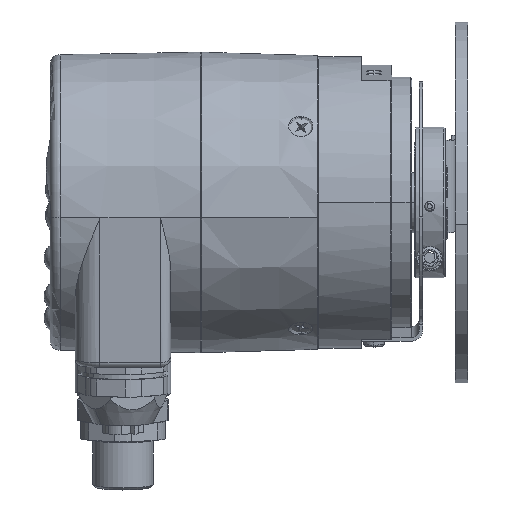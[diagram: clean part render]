
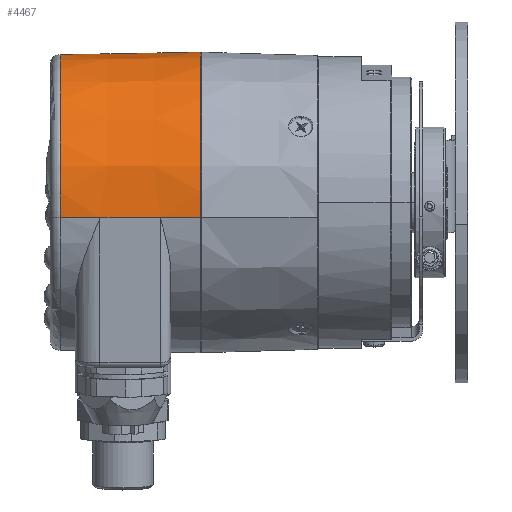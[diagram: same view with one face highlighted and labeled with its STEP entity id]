
A CAD part, top view. The second image highlights one B-rep face of the part: STEP entity #4467.
In plain terms, the highlighted conical face has half-angle 1 degrees and reference radius 30 mm.
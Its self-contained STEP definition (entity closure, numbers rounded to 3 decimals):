
#4467 = ADVANCED_FACE ( 'NONE', ( #22877 ), #22912, .T. ) ;
#4469 = EDGE_LOOP ( 'NONE', ( #4470, #4475, #4479, #4654, #4657, #4662, #4584, #4588 ) ) ;
#4470 = ORIENTED_EDGE ( 'NONE', *, *, #4471, .T. ) ;
#4471 = EDGE_CURVE ( 'NONE', #4473, #4474, #22908, .T. ) ;
#4473 = VERTEX_POINT ( 'NONE', #22904 ) ;
#4474 = VERTEX_POINT ( 'NONE', #22903 ) ;
#4475 = ORIENTED_EDGE ( 'NONE', *, *, #4476, .T. ) ;
#4476 = EDGE_CURVE ( 'NONE', #4474, #4478, #22902, .T. ) ;
#4478 = VERTEX_POINT ( 'NONE', #22898 ) ;
#4479 = ORIENTED_EDGE ( 'NONE', *, *, #4481, .T. ) ;
#4481 = EDGE_CURVE ( 'NONE', #4478, #4482, #22897, .T. ) ;
#4482 = VERTEX_POINT ( 'NONE', #22893 ) ;
#4580 = EDGE_CURVE ( 'NONE', #4582, #4660, #23035, .T. ) ;
#4582 = VERTEX_POINT ( 'NONE', #23031 ) ;
#4584 = ORIENTED_EDGE ( 'NONE', *, *, #4586, .F. ) ;
#4586 = EDGE_CURVE ( 'NONE', #4587, #4582, #23086, .T. ) ;
#4587 = VERTEX_POINT ( 'NONE', #23082 ) ;
#4588 = ORIENTED_EDGE ( 'NONE', *, *, #4598, .F. ) ;
#4598 = EDGE_CURVE ( 'NONE', #4473, #4587, #23079, .T. ) ;
#4654 = ORIENTED_EDGE ( 'NONE', *, *, #4655, .T. ) ;
#4655 = EDGE_CURVE ( 'NONE', #4482, #4656, #23186, .T. ) ;
#4656 = VERTEX_POINT ( 'NONE', #23182 ) ;
#4657 = ORIENTED_EDGE ( 'NONE', *, *, #4659, .F. ) ;
#4659 = EDGE_CURVE ( 'NONE', #4660, #4656, #23181, .T. ) ;
#4660 = VERTEX_POINT ( 'NONE', #23231 ) ;
#4662 = ORIENTED_EDGE ( 'NONE', *, *, #4580, .F. ) ;
#22877 = FACE_OUTER_BOUND ( 'NONE', #4469, .T. ) ;
#22893 = CARTESIAN_POINT ( 'NONE',  ( -24.035, -3.121, 29.696 ) ) ;
#22894 = DIRECTION ( 'NONE',  ( 1., -0.002, 0.017 ) ) ;
#22895 = VECTOR ( 'NONE', #22894, 1000. ) ;
#22896 = CARTESIAN_POINT ( 'NONE',  ( -16.523, -3.135, 29.827 ) ) ;
#22897 = LINE ( 'NONE', #22896, #22895 ) ;
#22898 = CARTESIAN_POINT ( 'NONE',  ( -36.087, -3.099, 29.487 ) ) ;
#22899 = DIRECTION ( 'NONE',  ( 1., -0.002, 0.017 ) ) ;
#22900 = VECTOR ( 'NONE', #22899, 1000. ) ;
#22901 = CARTESIAN_POINT ( 'NONE',  ( -16., -3.136, 29.836 ) ) ;
#22902 = LINE ( 'NONE', #22901, #22900 ) ;
#22903 = CARTESIAN_POINT ( 'NONE',  ( -44.035, -3.085, 29.349 ) ) ;
#22904 = CARTESIAN_POINT ( 'NONE',  ( -44.035, 3.085, -29.349 ) ) ;
#22905 = DIRECTION ( 'NONE',  ( 0., -0.105, 0.995 ) ) ;
#22906 = DIRECTION ( 'NONE',  ( 1., 0., 0. ) ) ;
#22907 = AXIS2_PLACEMENT_3D ( 'NONE', #22913, #22906, #22905 ) ;
#22908 = CIRCLE ( 'NONE', #22907, 29.511 ) ;
#22909 = DIRECTION ( 'NONE',  ( 0., 0.105, -0.995 ) ) ;
#22910 = DIRECTION ( 'NONE',  ( 1., 0., 0. ) ) ;
#22911 = AXIS2_PLACEMENT_3D ( 'NONE', #22914, #22910, #22909 ) ;
#22912 = CONICAL_SURFACE ( 'NONE', #22911, 30., 0.017 ) ;
#22913 = CARTESIAN_POINT ( 'NONE',  ( -44.035, 0., 0. ) ) ;
#22914 = CARTESIAN_POINT ( 'NONE',  ( -16., 0., 0. ) ) ;
#23031 = CARTESIAN_POINT ( 'NONE',  ( -24.035, 3.121, -29.696 ) ) ;
#23032 = DIRECTION ( 'NONE',  ( 1., 0.002, -0.017 ) ) ;
#23033 = VECTOR ( 'NONE', #23032, 1000. ) ;
#23034 = CARTESIAN_POINT ( 'NONE',  ( -16., 3.136, -29.836 ) ) ;
#23035 = LINE ( 'NONE', #23034, #23033 ) ;
#23076 = DIRECTION ( 'NONE',  ( 1., 0.002, -0.017 ) ) ;
#23077 = VECTOR ( 'NONE', #23076, 1000. ) ;
#23078 = CARTESIAN_POINT ( 'NONE',  ( -16., 3.136, -29.836 ) ) ;
#23079 = LINE ( 'NONE', #23078, #23077 ) ;
#23082 = CARTESIAN_POINT ( 'NONE',  ( -36.087, 3.099, -29.487 ) ) ;
#23083 = DIRECTION ( 'NONE',  ( 1., 0.002, -0.017 ) ) ;
#23084 = VECTOR ( 'NONE', #23083, 1000. ) ;
#23085 = CARTESIAN_POINT ( 'NONE',  ( -16.523, 3.135, -29.827 ) ) ;
#23086 = LINE ( 'NONE', #23085, #23084 ) ;
#23181 = CIRCLE ( 'NONE', #23235, 30. ) ;
#23182 = CARTESIAN_POINT ( 'NONE',  ( -16., -3.136, 29.836 ) ) ;
#23183 = DIRECTION ( 'NONE',  ( 1., -0.002, 0.017 ) ) ;
#23184 = VECTOR ( 'NONE', #23183, 1000. ) ;
#23185 = CARTESIAN_POINT ( 'NONE',  ( -16., -3.136, 29.836 ) ) ;
#23186 = LINE ( 'NONE', #23185, #23184 ) ;
#23231 = CARTESIAN_POINT ( 'NONE',  ( -16., 3.136, -29.836 ) ) ;
#23232 = DIRECTION ( 'NONE',  ( 0., 0.105, -0.995 ) ) ;
#23233 = DIRECTION ( 'NONE',  ( 1., 0., 0. ) ) ;
#23234 = CARTESIAN_POINT ( 'NONE',  ( -16., 0., 0. ) ) ;
#23235 = AXIS2_PLACEMENT_3D ( 'NONE', #23234, #23233, #23232 ) ;
